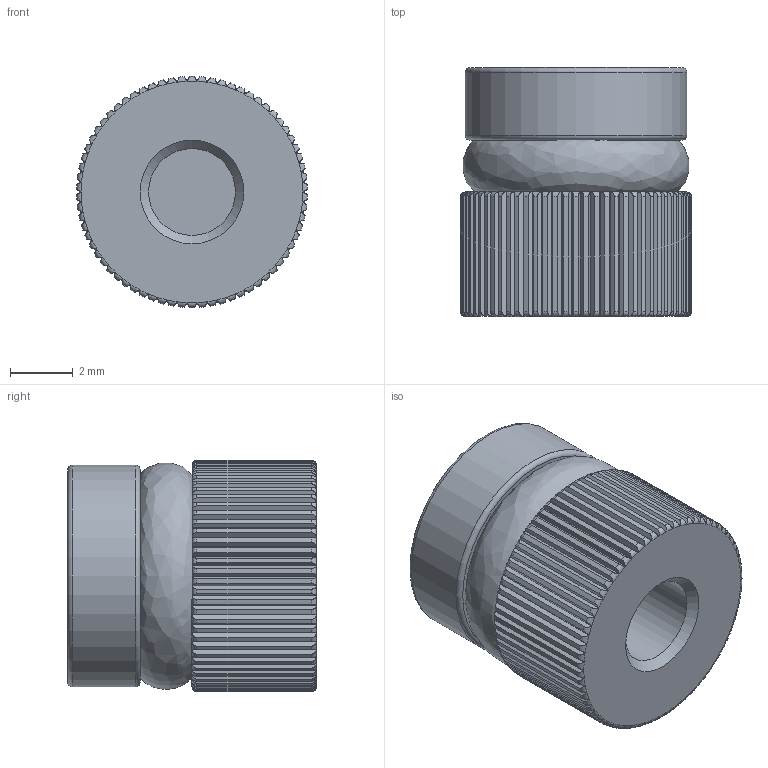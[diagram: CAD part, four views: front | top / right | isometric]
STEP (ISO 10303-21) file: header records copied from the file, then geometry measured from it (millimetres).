
FILE_DESCRIPTION(/* description */ (''),/* implementation_level */ '2;1');
FILE_NAME(/* name */ 'C:/Users/drich/Desktop/TIP-281 v1.step',/* time_stamp */ '2020-01-08T20:02:40-06:00',/* author */ (''),/* organization */ (''),/* preprocessor_version */ 'ST-DEVELOPER v18',/* originating_system */ 'Autodesk Translation Framework v8.12.0.6',/* authorisation */ '');
FILE_SCHEMA (('AUTOMOTIVE_DESIGN { 1 0 10303 214 3 1 1 }'));
Length unit declared in the file: inch
Products named in the file (1): TIP-281
Bounding box: 7.36 x 7.92 x 7.37 mm (x, y, z)
Volume: 285.7 mm3; surface area: 475.8 mm2
Topology: 2 solids, 2 shells, 366 faces, 804 edges, 444 vertices
Faces by surface type: plane 146, torus 142, cylinder 73, bspline 3, cone 2
Full cylindrical faces by diameter (mm): 2.769 x1, 4.445 x1, 7.061 x1
Entity records: 11888 total; most frequent: CARTESIAN_POINT 4266, ORIENTED_EDGE 1606, DIRECTION 1559, EDGE_CURVE 803, AXIS2_PLACEMENT_3D 672, VERTEX_POINT 444, EDGE_LOOP 371, FACE_OUTER_BOUND 366
